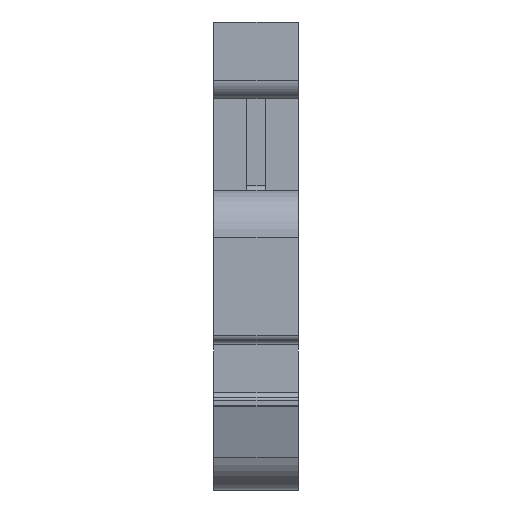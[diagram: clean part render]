
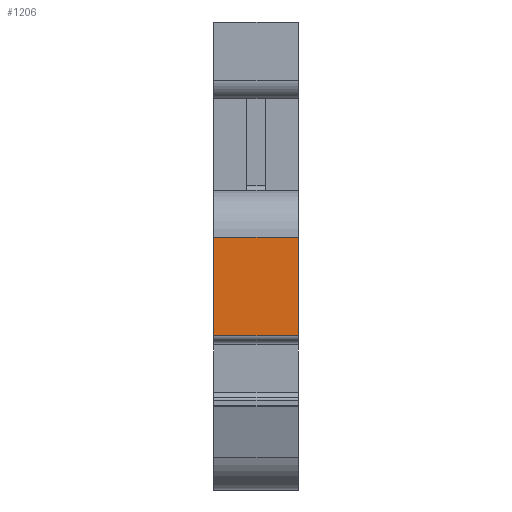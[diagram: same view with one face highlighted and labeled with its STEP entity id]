
A CAD part, left-side view. The second image highlights one B-rep face of the part: STEP entity #1206.
In plain terms, the highlighted planar face has unit normal (-1, 0, 0).
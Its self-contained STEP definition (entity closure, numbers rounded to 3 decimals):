
#9 = VERTEX_POINT ( 'NONE', #1463 ) ;
#26 = DIRECTION ( 'NONE',  ( 0., -1., 0. ) ) ;
#49 = DIRECTION ( 'NONE',  ( 0., 0., 1. ) ) ;
#164 = CARTESIAN_POINT ( 'NONE',  ( -98., 9., 0. ) ) ;
#216 = EDGE_CURVE ( 'NONE', #257, #3193, #2535, .T. ) ;
#257 = VERTEX_POINT ( 'NONE', #3374 ) ;
#336 = PLANE ( 'NONE',  #3173 ) ;
#561 = DIRECTION ( 'NONE',  ( -1., 0., 0. ) ) ;
#751 = LINE ( 'NONE', #2487, #2009 ) ;
#776 = EDGE_CURVE ( 'NONE', #3193, #9, #3582, .T. ) ;
#781 = VECTOR ( 'NONE', #49, 1000. ) ;
#954 = VECTOR ( 'NONE', #1363, 1000. ) ;
#1206 = ADVANCED_FACE ( 'NONE', ( #2986 ), #336, .T. ) ;
#1363 = DIRECTION ( 'NONE',  ( 0., 0., 1. ) ) ;
#1463 = CARTESIAN_POINT ( 'NONE',  ( -98., 0., 2. ) ) ;
#1528 = ORIENTED_EDGE ( 'NONE', *, *, #776, .F. ) ;
#1567 = VERTEX_POINT ( 'NONE', #2132 ) ;
#1809 = CARTESIAN_POINT ( 'NONE',  ( -98., -11.732, 2. ) ) ;
#1814 = CARTESIAN_POINT ( 'NONE',  ( -98., 0., -25. ) ) ;
#2009 = VECTOR ( 'NONE', #3344, 1000. ) ;
#2028 = ORIENTED_EDGE ( 'NONE', *, *, #216, .F. ) ;
#2132 = CARTESIAN_POINT ( 'NONE',  ( -98., 0., -8.5 ) ) ;
#2282 = VECTOR ( 'NONE', #26, 1000. ) ;
#2319 = ORIENTED_EDGE ( 'NONE', *, *, #3320, .T. ) ;
#2334 = EDGE_LOOP ( 'NONE', ( #2319, #1528, #2028, #2922 ) ) ;
#2432 = LINE ( 'NONE', #1814, #781 ) ;
#2487 = CARTESIAN_POINT ( 'NONE',  ( -98., 0., -8.5 ) ) ;
#2535 = LINE ( 'NONE', #164, #954 ) ;
#2693 = CARTESIAN_POINT ( 'NONE',  ( -98., 0., -25. ) ) ;
#2922 = ORIENTED_EDGE ( 'NONE', *, *, #3544, .T. ) ;
#2986 = FACE_OUTER_BOUND ( 'NONE', #2334, .T. ) ;
#2994 = CARTESIAN_POINT ( 'NONE',  ( -98., 9., 2. ) ) ;
#3005 = DIRECTION ( 'NONE',  ( 0., 0., 1. ) ) ;
#3173 = AXIS2_PLACEMENT_3D ( 'NONE', #2693, #561, #3005 ) ;
#3193 = VERTEX_POINT ( 'NONE', #2994 ) ;
#3320 = EDGE_CURVE ( 'NONE', #1567, #9, #2432, .T. ) ;
#3344 = DIRECTION ( 'NONE',  ( 0., -1., 0. ) ) ;
#3374 = CARTESIAN_POINT ( 'NONE',  ( -98., 9., -8.5 ) ) ;
#3544 = EDGE_CURVE ( 'NONE', #257, #1567, #751, .T. ) ;
#3582 = LINE ( 'NONE', #1809, #2282 ) ;
